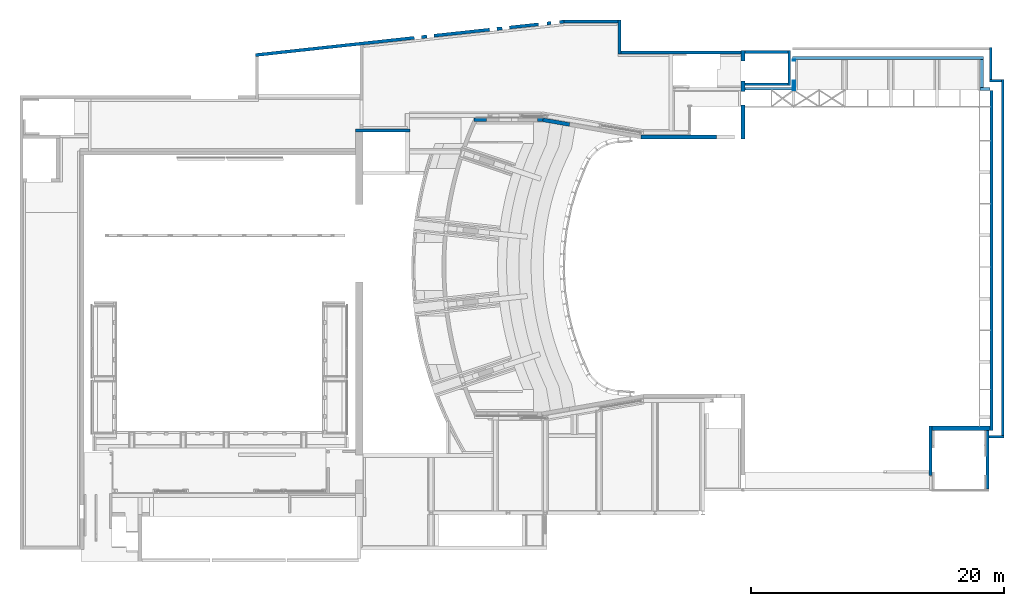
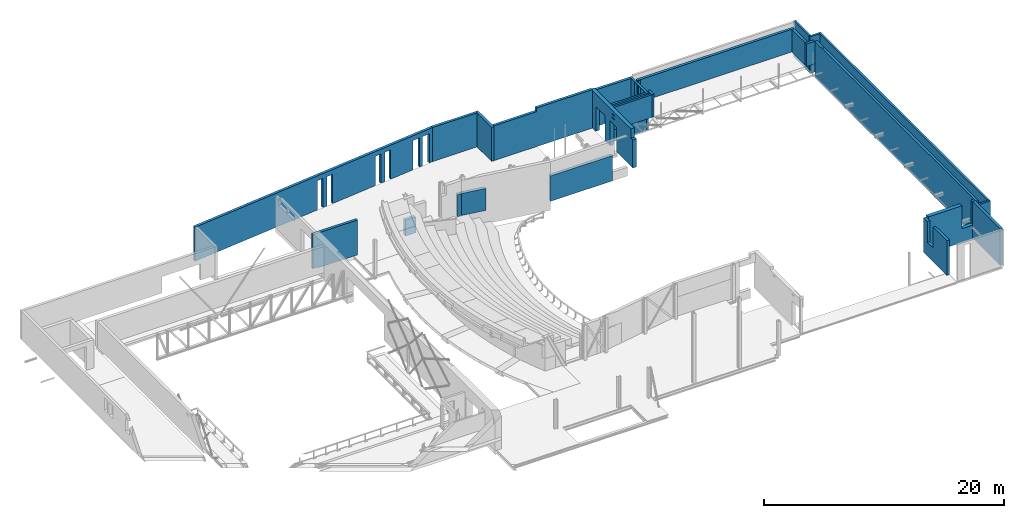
# One storey, part 53 of 68: 26 walls, 19 openings.
"""IFC2X3 building model written with IfcOpenShell, lengths in millimetres."""

from ifc_helpers import new_model, entity, si_unit, converted_unit, derived_unit, direction, frame, frame_2d, origin, origin_2d_with_axis, place, context, subcontext, project, spatial, polyline, rectangle, outline, extrude, clip, bounded_halfspace, material, layer, layer_set, layer_usage, type_object, element, save


model = new_model("IFC2X3")

# Units and contexts
model_context = context("Model", 3, precision=0.01, world=origin(), true_north=direction((6.12303176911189e-17, 1.0)))
body_context = subcontext(model_context, "Body", "Model", "MODEL_VIEW")
ifc_project = project(units=[si_unit("LENGTHUNIT", "METRE", prefix="MILLI"), si_unit("AREAUNIT", "SQUARE_METRE", prefix="MILLI"), si_unit("VOLUMEUNIT", "CUBIC_METRE"), converted_unit("PLANEANGLEUNIT", "DEGREE", entity("IfcRatioMeasure", 0.0174532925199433), si_unit("PLANEANGLEUNIT", "RADIAN"), dimensions=[0, 0, 0, 0, 0, 0, 0]), si_unit("MASSUNIT", "GRAM", prefix="KILO"), derived_unit("MASSDENSITYUNIT", [(si_unit("MASSUNIT", "GRAM", prefix="KILO"), 1), (si_unit("LENGTHUNIT", "METRE"), -3)]), derived_unit("MOMENTOFINERTIAUNIT", [(si_unit("LENGTHUNIT", "METRE"), 4)]), si_unit("TIMEUNIT", "SECOND"), si_unit("FREQUENCYUNIT", "HERTZ"), si_unit("THERMODYNAMICTEMPERATUREUNIT", "DEGREE_CELSIUS"), derived_unit("THERMALTRANSMITTANCEUNIT", [(si_unit("MASSUNIT", "GRAM", prefix="KILO"), 1), (si_unit("THERMODYNAMICTEMPERATUREUNIT", "KELVIN"), -1), (si_unit("TIMEUNIT", "SECOND"), -3)]), derived_unit("VOLUMETRICFLOWRATEUNIT", [(si_unit("LENGTHUNIT", "METRE"), 3), (si_unit("TIMEUNIT", "SECOND"), -1)]), si_unit("ELECTRICCURRENTUNIT", "AMPERE"), si_unit("ELECTRICVOLTAGEUNIT", "VOLT"), si_unit("POWERUNIT", "WATT"), si_unit("FORCEUNIT", "NEWTON", prefix="KILO"), si_unit("ILLUMINANCEUNIT", "LUX"), si_unit("LUMINOUSFLUXUNIT", "LUMEN"), si_unit("LUMINOUSINTENSITYUNIT", "CANDELA"), derived_unit("USERDEFINED", [(si_unit("MASSUNIT", "GRAM", prefix="KILO"), -1), (si_unit("LENGTHUNIT", "METRE"), -2), (si_unit("TIMEUNIT", "SECOND"), 3), (si_unit("LUMINOUSFLUXUNIT", "LUMEN"), 1)]), derived_unit("LINEARVELOCITYUNIT", [(si_unit("LENGTHUNIT", "METRE"), 1), (si_unit("TIMEUNIT", "SECOND"), -1)]), si_unit("PRESSUREUNIT", "PASCAL"), derived_unit("USERDEFINED", [(si_unit("LENGTHUNIT", "METRE"), -2), (si_unit("MASSUNIT", "GRAM", prefix="KILO"), 1), (si_unit("TIMEUNIT", "SECOND"), -2)]), derived_unit("LINEARFORCEUNIT", [(si_unit("MASSUNIT", "GRAM", prefix="KILO"), 1), (si_unit("LENGTHUNIT", "METRE"), 1), (si_unit("TIMEUNIT", "SECOND"), -2), (si_unit("LENGTHUNIT", "METRE"), -1)]), derived_unit("PLANARFORCEUNIT", [(si_unit("MASSUNIT", "GRAM", prefix="KILO"), 1), (si_unit("LENGTHUNIT", "METRE"), 1), (si_unit("TIMEUNIT", "SECOND"), -2), (si_unit("LENGTHUNIT", "METRE"), -2)])], contexts=[model_context])

# Site, building, storey
site_placement = place(None, origin())
site = spatial("IfcSite", under=ifc_project, at=site_placement, Name="Theater aan de Parade", CompositionType="ELEMENT")
building_placement = place(site_placement, origin())
building = spatial("IfcBuilding", under=site, at=building_placement, Name="Theater aan de Parade", CompositionType="ELEMENT")
storey_placement = place(building_placement, frame((0.0, 0.0, 8750.0)))
storey = spatial("IfcBuildingStorey", under=building, at=storey_placement, Name="02 tweede verdieping", CompositionType="ELEMENT", Elevation=8750.0)

# Walls
ifc_material_1 = material(Name="00_PBT_MAT_beton t.p.g._C30/37")
ifc_layer_1 = layer(ifc_material_1, 300.0)
ifc_layer_set_1 = layer_set([ifc_layer_1], Name="Basic Wall:28_PBT_WA_beton t.p.g._d=300_C30/37")
ifc_layer_usage_1 = layer_usage(ifc_layer_set_1, "AXIS2", "NEGATIVE", 150.0)
wall_type_1 = type_object("IfcWallType", Name="Basic Wall:28_PBT_WA_beton t.p.g._d=300_C30/37", PredefinedType="STANDARD", material=ifc_layer_set_1)
wall_1_placement = place(storey_placement, frame((51275.0, 44060.0, -240.0)))
element("IfcWallStandardCase", 1, at=wall_1_placement, inside=storey, type_object=wall_type_1, material=ifc_layer_usage_1, Name="Basic Wall:28_PBT_WA_beton t.p.g._d=300_C30/37", ObjectType="Basic Wall:28_PBT_WA_beton t.p.g._d=300_C30/37", context=body_context, shape_type="SweptSolid", body=[
    extrude(outline(polyline([(395.0, -150.0), (421.052043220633, 150.0), (408.026021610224, 150.0), (0.0, 150.0), (0.0, -150.0), (395.0, -150.0)])), origin(), (0.0, 0.0, 1.0), 2240.00000000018),
])
ifc_layer_usage_2 = layer_usage(ifc_layer_set_1, "AXIS2", "NEGATIVE", 150.0)
wall_2_placement = place(storey_placement, frame((51670.1949934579, 44062.2454299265, -240.0), z_axis=(0.0, 0.0, 1.0), x_axis=(0.985030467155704, -0.172380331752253, 0.0)))
element("IfcWallStandardCase", 2, at=wall_2_placement, inside=storey, type_object=wall_type_1, material=ifc_layer_usage_2, Name="Basic Wall:28_PBT_WA_beton t.p.g._d=300_C30/37", ObjectType="Basic Wall:28_PBT_WA_beton t.p.g._d=300_C30/37", context=body_context, shape_type="SweptSolid", body=[
    extrude(outline(polyline([(2161.81111605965, -150.0), (2161.81111605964, 150.0), (629.453867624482, 150.0), (8.08674473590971, 150.0), (0.0, 150.0), (26.0520432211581, -150.0), (2161.81111605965, -150.0)])), origin(), (0.0, 0.0, 1.0), 2240.0),
])
ifc_layer_usage_3 = layer_usage(ifc_layer_set_1, "AXIS2", "NEGATIVE", 150.0)
wall_3_placement = place(storey_placement, frame((59441.4285714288, 42700.0, -700.0)))
element("IfcWallStandardCase", 3, at=wall_3_placement, inside=storey, type_object=wall_type_1, material=ifc_layer_usage_3, Name="Basic Wall:28_PBT_WA_beton t.p.g._d=300_C30/37", ObjectType="Basic Wall:28_PBT_WA_beton t.p.g._d=300_C30/37", context=body_context, shape_type="SweptSolid", body=[
    extrude(rectangle(XDim=5978.57142857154, YDim=300.000000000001, at=frame_2d((2989.28571428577, -5.96855898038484e-13), x_axis=(-1.0, 0.0))), origin(), (0.0, 0.0, 1.0), 2580.0),
])
ifc_layer_usage_4 = layer_usage(ifc_layer_set_1, "AXIS2", "NEGATIVE", 150.0)
wall_4_placement = place(storey_placement, frame((46246.5143189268, 44060.0, -460.0)))
element("IfcWallStandardCase", 4, at=wall_4_placement, inside=storey, type_object=wall_type_1, material=ifc_layer_usage_4, Name="Basic Wall:28_PBT_WA_beton t.p.g._d=300_C30/37", ObjectType="Basic Wall:28_PBT_WA_beton t.p.g._d=300_C30/37", context=body_context, shape_type="SweptSolid", body=[
    extrude(rectangle(XDim=994.999999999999, YDim=300.000000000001, at=frame_2d((497.5, 0.0), x_axis=(-1.0, 0.0))), origin(), (0.0, 0.0, 1.0), 1630.0),
])

# Wall, openings
ifc_layer_2 = layer(ifc_material_1, 250.0)
ifc_layer_set_2 = layer_set([ifc_layer_2], Name="Basic Wall:28_PBT_WA_beton t.p.g._d=250_C30/37")
ifc_layer_usage_5 = layer_usage(ifc_layer_set_2, "AXIS2", "NEGATIVE", 125.0)
wall_type_2 = type_object("IfcWallType", Name="Basic Wall:28_PBT_WA_beton t.p.g._d=250_C30/37", PredefinedType="STANDARD", material=ifc_layer_set_2)
wall_5_placement = place(storey_placement, frame((53371.6537622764, 51836.2485492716, -80.0), z_axis=(0.0, 0.0, 1.0), x_axis=(-0.994164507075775, -0.107874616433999, 0.0)))
wall_5 = element("IfcWallStandardCase", 5, at=wall_5_placement, inside=storey, type_object=wall_type_2, material=ifc_layer_usage_5, Name="Basic Wall:28_PBT_WA_beton t.p.g._d=250_C30/37", ObjectType="Basic Wall:28_PBT_WA_beton t.p.g._d=250_C30/37", context=body_context, shape_type="SweptSolid", body=[
    extrude(outline(polyline([(0.0, -125.0), (24562.6067870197, -125.0), (24589.7337402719, 125.0), (24338.2663038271, 125.0), (16276.2599590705, 125.0), (16024.7925226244, 125.0), (13.5237860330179, 125.0), (0.0, -125.0)])), origin(), (0.0, 0.0, 1.0), 3470.0),
])
opening_1_placement = place(wall_5_placement, origin())
element("IfcOpeningElement", 6, at=opening_1_placement, cuts=wall_5, Name="Basic Wall:28_PBT_WA_beton t.p.g._d=250_C30/37", ObjectType="Opening", context=body_context, shape_type="SweptSolid", body=[
    extrude(rectangle(XDim=2979.99999999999, YDim=680.000000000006, at=frame_2d((4.77484718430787e-12, -1.13686837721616e-12), x_axis=(0.0, 1.0))), frame((699.437637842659, -125.0, 1490.0), z_axis=(0.0, 1.0, 0.0), x_axis=(1.0, 0.0, 0.0)), (0.0, 0.0, 1.0), 250.000000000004),
])
opening_2_placement = place(wall_5_placement, origin())
element("IfcOpeningElement", 7, at=opening_2_placement, cuts=wall_5, Name="Basic Wall:28_PBT_WA_beton t.p.g._d=250_C30/37", ObjectType="Opening", context=body_context, shape_type="SweptSolid", body=[
    extrude(rectangle(XDim=2979.99999999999, YDim=680.000000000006, at=frame_2d((-4.77484718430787e-12, -1.13686837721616e-12), x_axis=(0.0, 1.0))), frame((1699.43763784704, -125.0, 1490.0), z_axis=(0.0, 1.0, 0.0), x_axis=(1.0, 0.0, 0.0)), (0.0, 0.0, 1.0), 249.999999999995),
])
opening_3_placement = place(wall_5_placement, origin())
element("IfcOpeningElement", 8, at=opening_3_placement, cuts=wall_5, Name="Basic Wall:28_PBT_WA_beton t.p.g._d=250_C30/37", ObjectType="Opening", context=body_context, shape_type="SweptSolid", body=[
    extrude(rectangle(XDim=2979.99999999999, YDim=570.000000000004, at=frame_2d((0.0, -1.13686837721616e-12), x_axis=(0.0, 1.0))), frame((4644.43762879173, -125.0, 1490.0), z_axis=(0.0, 1.0, 0.0), x_axis=(1.0, 0.0, 0.0)), (0.0, 0.0, 1.0), 250.000000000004),
])
opening_4_placement = place(wall_5_placement, origin())
element("IfcOpeningElement", 9, at=opening_4_placement, cuts=wall_5, Name="Basic Wall:28_PBT_WA_beton t.p.g._d=250_C30/37", ObjectType="Opening", context=body_context, shape_type="SweptSolid", body=[
    extrude(rectangle(XDim=2979.99999999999, YDim=570.000000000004, at=frame_2d((0.0, -1.13686837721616e-12), x_axis=(0.0, 1.0))), frame((5644.43762871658, -125.0, 1490.0), z_axis=(0.0, 1.0, 0.0), x_axis=(1.0, 0.0, 0.0)), (0.0, 0.0, 1.0), 250.000000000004),
])
opening_5_placement = place(wall_5_placement, origin())
element("IfcOpeningElement", 10, at=opening_5_placement, cuts=wall_5, Name="Basic Wall:28_PBT_WA_beton t.p.g._d=250_C30/37", ObjectType="Opening", context=body_context, shape_type="SweptSolid", body=[
    extrude(rectangle(XDim=2979.99999999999, YDim=570.000000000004, at=frame_2d((0.0, -1.13686837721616e-12), x_axis=(0.0, 1.0))), frame((10644.4376367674, -125.0, 1490.0), z_axis=(0.0, 1.0, 0.0), x_axis=(1.0, 0.0, 0.0)), (0.0, 0.0, 1.0), 250.000000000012),
])
opening_6_placement = place(wall_5_placement, origin())
element("IfcOpeningElement", 11, at=opening_6_placement, cuts=wall_5, Name="Basic Wall:28_PBT_WA_beton t.p.g._d=250_C30/37", ObjectType="Opening", context=body_context, shape_type="SweptSolid", body=[
    extrude(rectangle(XDim=2979.99999999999, YDim=570.000000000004, at=frame_2d((0.0, -1.13686837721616e-12), x_axis=(0.0, 1.0))), frame((11644.437338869, -125.0, 1490.0), z_axis=(0.0, 1.0, 0.0), x_axis=(1.0, 0.0, 0.0)), (0.0, 0.0, 1.0), 250.000000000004),
])

# Wall, opening
ifc_layer_usage_6 = layer_usage(ifc_layer_set_2, "AXIS2", "POSITIVE", -125.0)
wall_6_placement = place(storey_placement, frame((82375.0084217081, 19810.0002435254, -90.0), z_axis=(0.0, 0.0, 1.0), x_axis=(0.0, -1.0, 0.0)))
wall_6 = element("IfcWallStandardCase", 12, at=wall_6_placement, inside=storey, type_object=wall_type_2, material=ifc_layer_usage_6, Name="Basic Wall:28_PBT_WA_beton t.p.g._d=250_C30/37", ObjectType="Basic Wall:28_PBT_WA_beton t.p.g._d=250_C30/37", context=body_context, shape_type="Clipping", body=[
    clip(clip(extrude(rectangle(XDim=3885.00024352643, YDim=250.000000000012, at=frame_2d((1942.50012176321, -1.33582034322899e-12), x_axis=(-1.0, 0.0))), origin(), (0.0, 0.0, 1.0), 3540.0), bounded_halfspace(frame((3613.00024352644, -125.0, 10.0), z_axis=(0.0, 0.0, 1.0), x_axis=(0.0, 1.0, 0.0)), True, frame((3613.00024352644, -125.0, 10.0), z_axis=(0.0, 0.0, 1.0), x_axis=(0.0, 1.0, 0.0)), polyline([(0.0, 0.0), (0.0, -272.0), (250.0, -272.0), (250.0, 0.0), (0.0, 0.0)]))), bounded_halfspace(frame((3613.00024352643, 125.0, 10.0), z_axis=(-1.0, 0.0, 0.0), x_axis=(0.0, 0.0, 1.0)), True, frame((3613.00024352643, 125.0, 10.0), z_axis=(-1.0, 0.0, 0.0), x_axis=(0.0, 0.0, 1.0)), polyline([(0.0, 0.0), (-10.0, 0.0), (-10.0, -250.0), (0.0, -250.0), (0.0, 0.0)]))),
])
opening_7_placement = place(wall_6_placement, origin())
element("IfcOpeningElement", 13, at=opening_7_placement, cuts=wall_6, Name="Basic Wall:28_PBT_WA_beton t.p.g._d=250_C30/37", ObjectType="Opening", context=body_context, shape_type="SweptSolid", body=[
    extrude(rectangle(XDim=2219.99999999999, YDim=954.000000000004, at=frame_2d((1.13686837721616e-12, 0.0), x_axis=(1.0, 0.0))), frame((1114.5553118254, -125.0, 2510.0), z_axis=(0.0, 1.0, 0.0), x_axis=(0.0, 0.0, -1.0)), (0.0, 0.0, 1.0), 250.000000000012),
])

# Walls
ifc_layer_usage_7 = layer_usage(ifc_layer_set_2, "AXIS2", "POSITIVE", -125.0)
wall_7_placement = place(storey_placement, frame((87096.0, 46486.8723406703, 1310.0), z_axis=(0.0, 0.0, 1.0), x_axis=(-1.0, 0.0, 0.0)))
element("IfcWallStandardCase", 14, at=wall_7_placement, inside=storey, type_object=wall_type_2, material=ifc_layer_usage_7, Name="Basic Wall:28_PBT_WA_beton t.p.g._d=250_C30/37", ObjectType="Basic Wall:28_PBT_WA_beton t.p.g._d=250_C30/37", context=body_context, shape_type="SweptSolid", body=[
    extrude(rectangle(XDim=790.831682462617, YDim=249.999999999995, at=frame_2d((395.415841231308, -2.68585154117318e-12), x_axis=(-1.0, 0.0))), origin(), (0.0, 0.0, 1.0), 2300.0),
])
ifc_layer_usage_8 = layer_usage(ifc_layer_set_2, "AXIS2", "NEGATIVE", 125.0)
wall_8_placement = place(storey_placement, frame((57762.0315633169, 49261.9979908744, -80.0), z_axis=(0.0, 0.0, 1.0), x_axis=(0.0, 1.0, 0.0)))
element("IfcWallStandardCase", 15, at=wall_8_placement, inside=storey, type_object=wall_type_2, material=ifc_layer_usage_8, Name="Basic Wall:28_PBT_WA_beton t.p.g._d=250_C30/37", ObjectType="Basic Wall:28_PBT_WA_beton t.p.g._d=250_C30/37", context=body_context, shape_type="SweptSolid", body=[
    extrude(rectangle(XDim=2698.52112178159, YDim=249.999999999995, at=frame_2d((1349.2605608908, 0.0), x_axis=(-1.0, 0.0))), origin(), (0.0, 0.0, 1.0), 3470.0),
])
ifc_layer_usage_9 = layer_usage(ifc_layer_set_2, "AXIS2", "POSITIVE", -125.0)
wall_9_placement = place(storey_placement, frame((67356.2561009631, 49386.9979908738, -80.0), z_axis=(0.0, 0.0, 1.0), x_axis=(-1.0, 0.0, 0.0)))
element("IfcWallStandardCase", 16, at=wall_9_placement, inside=storey, type_object=wall_type_2, material=ifc_layer_usage_9, Name="Basic Wall:28_PBT_WA_beton t.p.g._d=250_C30/37", ObjectType="Basic Wall:28_PBT_WA_beton t.p.g._d=250_C30/37", context=body_context, shape_type="Clipping", body=[
    clip(clip(extrude(rectangle(XDim=9469.22453764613, YDim=249.999999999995, at=frame_2d((4734.61226882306, -2.00373051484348e-12), x_axis=(-1.0, 0.0))), origin(), (0.0, 0.0, 1.0), 3930.0), bounded_halfspace(frame((5372.37384460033, 125.0, 3550.0), z_axis=(0.0, 0.0, -1.0), x_axis=(1.0, 0.0, 0.0)), True, frame((5372.37384460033, 125.0, 3550.0), z_axis=(0.0, 0.0, -1.0), x_axis=(1.0, 0.0, 0.0)), polyline([(0.0, 0.0), (300.0, 0.0), (320.0, 0.0), (4046.85069304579, 0.0), (4096.85069304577, 0.0), (4096.85069304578, 250.0), (0.0, 250.0), (0.0, 0.0)]))), bounded_halfspace(frame((5372.37384460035, -125.0, 3550.0), z_axis=(-1.0, 0.0, 0.0), x_axis=(0.0, 0.0, 1.0)), True, frame((5372.37384460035, -125.0, 3550.0), z_axis=(-1.0, 0.0, 0.0), x_axis=(0.0, 0.0, 1.0)), polyline([(0.0, 0.0), (380.0, 0.0), (380.0, 250.0), (295.0, 250.0), (0.0, 250.0), (0.0, 0.0)]))),
])
ifc_layer_usage_10 = layer_usage(ifc_layer_set_2, "AXIS2", "POSITIVE", -125.0)
wall_10_placement = place(storey_placement, frame((86555.1683175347, 48947.0, 1310.0), z_axis=(0.0, 0.0, 1.0), x_axis=(-1.0, 0.0, 0.0)))
element("IfcWallStandardCase", 17, at=wall_10_placement, inside=storey, type_object=wall_type_2, material=ifc_layer_usage_10, Name="Basic Wall:28_PBT_WA_beton t.p.g._d=250_C30/37", ObjectType="Basic Wall:28_PBT_WA_beton t.p.g._d=250_C30/37", context=body_context, shape_type="SweptSolid", body=[
    extrude(rectangle(XDim=15098.1683175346, YDim=249.999999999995, at=frame_2d((7549.08415876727, -5.47117906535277e-13), x_axis=(-1.0, 0.0))), origin(), (0.0, 0.0, 1.0), 2300.0),
])
ifc_layer_usage_11 = layer_usage(ifc_layer_set_2, "AXIS2", "NEGATIVE", 125.0)
wall_11_placement = place(storey_placement, frame((86891.0, 19460.0002435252, 0.0), z_axis=(0.0, 0.0, 1.0), x_axis=(0.0, -1.0, 0.0)))
element("IfcWallStandardCase", 18, at=wall_11_placement, inside=storey, type_object=wall_type_2, material=ifc_layer_usage_11, Name="Basic Wall:28_PBT_WA_beton t.p.g._d=250_C30/37", ObjectType="Basic Wall:28_PBT_WA_beton t.p.g._d=250_C30/37", context=body_context, shape_type="SweptSolid", body=[
    extrude(rectangle(XDim=4610.0002435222, YDim=250.000000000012, at=frame_2d((2305.0001217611, 1.49213974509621e-13), x_axis=(-1.0, 0.0))), origin(), (0.0, 0.0, 1.0), 3730.0),
])
ifc_layer_usage_12 = layer_usage(ifc_layer_set_2, "AXIS2", "POSITIVE", -125.0)
wall_12_placement = place(storey_placement, frame((86430.1683175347, 46611.8723406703, 1310.0), z_axis=(0.0, 0.0, 1.0), x_axis=(0.0, 1.0, 0.0)))
element("IfcWallStandardCase", 19, at=wall_12_placement, inside=storey, type_object=wall_type_2, material=ifc_layer_usage_12, Name="Basic Wall:28_PBT_WA_beton t.p.g._d=250_C30/37", ObjectType="Basic Wall:28_PBT_WA_beton t.p.g._d=250_C30/37", context=body_context, shape_type="SweptSolid", body=[
    extrude(rectangle(XDim=2210.12765932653, YDim=250.000000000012, at=frame_2d((1105.06382966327, 3.5598191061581e-12), x_axis=(-1.0, 0.0))), origin(), (0.0, 0.0, 1.0), 2300.0),
])
ifc_layer_usage_13 = layer_usage(ifc_layer_set_2, "AXIS2", "NEGATIVE", 125.0)
wall_13_placement = place(storey_placement, frame((57637.0315633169, 51835.519112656, -80.0), z_axis=(0.0, 0.0, 1.0), x_axis=(-1.0, 0.0, 0.0)))
element("IfcWallStandardCase", 20, at=wall_13_placement, inside=storey, type_object=wall_type_2, material=ifc_layer_usage_13, Name="Basic Wall:28_PBT_WA_beton t.p.g._d=250_C30/37", ObjectType="Basic Wall:28_PBT_WA_beton t.p.g._d=250_C30/37", context=body_context, shape_type="SweptSolid", body=[
    extrude(outline(polyline([(4278.8621280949, -125.0), (4265.33834206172, 125.0), (0.0, 125.0), (0.0, -125.0), (4278.8621280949, -125.0)])), origin(), (0.0, 0.0, 1.0), 3470.0),
])
ifc_layer_usage_14 = layer_usage(ifc_layer_set_2, "AXIS2", "POSITIVE", -125.0)
wall_14_placement = place(storey_placement, frame((36853.8581300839, 43225.0, -80.0)))
element("IfcWallStandardCase", 21, at=wall_14_placement, inside=storey, type_object=wall_type_2, material=ifc_layer_usage_14, Name="Basic Wall:28_PBT_WA_beton t.p.g._d=250_C30/37", ObjectType="Basic Wall:28_PBT_WA_beton t.p.g._d=250_C30/37", context=body_context, shape_type="Clipping", body=[
    clip(clip(extrude(rectangle(XDim=4313.99999741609, YDim=249.999999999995, at=frame_2d((2156.99999870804, 7.95807864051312e-13), x_axis=(-1.0, 0.0))), origin(), (0.0, 0.0, 1.0), 3550.0), bounded_halfspace(frame((600.0, 125.0, 80.0)), True, frame((600.0, 125.0, 80.0)), polyline([(0.0, 0.0), (-600.0, 0.0), (-600.0, -250.0), (0.0, -250.0), (0.0, 0.0)]))), bounded_halfspace(frame((600.0, -125.0, 80.0), z_axis=(1.0, 0.0, 0.0), x_axis=(0.0, 0.0, 1.0)), True, frame((600.0, -125.0, 80.0), z_axis=(1.0, 0.0, 0.0), x_axis=(0.0, 0.0, 1.0)), polyline([(0.0, 0.0), (-80.0, 0.0), (-80.0, -250.0), (0.0, -250.0), (0.0, 0.0)]))),
])
ifc_layer_usage_15 = layer_usage(ifc_layer_set_2, "AXIS2", "NEGATIVE", 125.0)
wall_15_placement = place(storey_placement, frame((71107.0, 49437.0, -80.0), z_axis=(0.0, 0.0, 1.0), x_axis=(-1.0, 0.0, 0.0)))
element("IfcWallStandardCase", 22, at=wall_15_placement, inside=storey, type_object=wall_type_2, material=ifc_layer_usage_15, Name="Basic Wall:28_PBT_WA_beton t.p.g._d=250_C30/37", ObjectType="Basic Wall:28_PBT_WA_beton t.p.g._d=250_C30/37", context=body_context, shape_type="SweptSolid", body=[
    extrude(rectangle(XDim=3400.74389903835, YDim=249.999999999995, at=frame_2d((1700.37194951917, 1.62003743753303e-12), x_axis=(-1.0, 0.0))), origin(), (0.0, 0.0, 1.0), 3730.0),
])

# Wall, opening
ifc_layer_3 = layer(ifc_material_1, 200.0)
ifc_layer_set_3 = layer_set([ifc_layer_3], Name="Basic Wall:28_PBT_WA_beton t.p.g._d=200_C30/37")
ifc_layer_usage_16 = layer_usage(ifc_layer_set_3, "AXIS2", "NEGATIVE", 100.0)
wall_type_3 = type_object("IfcWallType", Name="Basic Wall:28_PBT_WA_beton t.p.g._d=200_C30/37", PredefinedType="STANDARD", material=ifc_layer_set_3)
wall_16_placement = place(storey_placement, frame((71207.0, 46761.8723406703, -80.0), z_axis=(0.0, 0.0, 1.0), x_axis=(0.0, 1.0, 0.0)))
wall_16 = element("IfcWallStandardCase", 23, at=wall_16_placement, inside=storey, type_object=wall_type_3, material=ifc_layer_usage_16, Name="Basic Wall:28_PBT_WA_beton t.p.g._d=200_C30/37", ObjectType="Basic Wall:28_PBT_WA_beton t.p.g._d=200_C30/37", context=body_context, shape_type="Clipping", body=[
    clip(extrude(rectangle(XDim=2800.12765932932, YDim=200.000000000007, at=frame_2d((1400.06382966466, -2.63611354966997e-12), x_axis=(-1.0, 0.0))), origin(), (0.0, 0.0, 1.0), 3720.0), bounded_halfspace(frame((2800.12765932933, 100.0, 3720.0), z_axis=(0.0, 0.0, -1.0), x_axis=(0.0, 1.0, 0.0)), True, frame((2800.12765932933, 100.0, 3720.0), z_axis=(0.0, 0.0, -1.0), x_axis=(0.0, 1.0, 0.0)), polyline([(0.0, 0.0), (-200.0, 0.0), (-200.0, -490.0), (-200.0, -2800.12765932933), (0.0, -2800.12765932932), (0.0, 0.0)]))),
])
opening_8_placement = place(wall_16_placement, origin())
element("IfcOpeningElement", 24, at=opening_8_placement, cuts=wall_16, Name="Basic Wall:28_PBT_WA_beton t.p.g._d=200_C30/37", ObjectType="Opening", context=body_context, shape_type="SweptSolid", body=[
    extrude(rectangle(XDim=2299.99999999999, YDim=1580.0, at=frame_2d((0.0, 0.0), x_axis=(0.0, 1.0))), frame((1165.0, -100.0, 2540.0), z_axis=(0.0, 1.0, 0.0), x_axis=(1.0, 0.0, 0.0)), (0.0, 0.0, 1.0), 200.000000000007),
])

# Wall
ifc_layer_usage_17 = layer_usage(ifc_layer_set_3, "AXIS2", "POSITIVE", -100.0)
wall_17_placement = place(storey_placement, frame((71107.0, 46861.8723406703, -80.0), z_axis=(0.0, 0.0, 1.0), x_axis=(-1.0, 0.0, 0.0)))
element("IfcWallStandardCase", 25, at=wall_17_placement, inside=storey, type_object=wall_type_3, material=ifc_layer_usage_17, Name="Basic Wall:28_PBT_WA_beton t.p.g._d=200_C30/37", ObjectType="Basic Wall:28_PBT_WA_beton t.p.g._d=200_C30/37", context=body_context, shape_type="SweptSolid", body=[
    extrude(rectangle(XDim=3400.74389903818, YDim=200.000000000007, at=frame_2d((1700.37194951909, -1.61293201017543e-12), x_axis=(-1.0, 0.0))), origin(), (0.0, 0.0, 1.0), 3730.0),
])

# Wall, opening
ifc_layer_usage_18 = layer_usage(ifc_layer_set_3, "AXIS2", "NEGATIVE", 100.0)
wall_18_placement = place(storey_placement, frame((71557.0, 46411.8723406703, 1310.0), z_axis=(0.0, 0.0, 1.0), x_axis=(0.0, 1.0, 0.0)))
wall_18 = element("IfcWallStandardCase", 26, at=wall_18_placement, inside=storey, type_object=wall_type_3, material=ifc_layer_usage_18, Name="Basic Wall:28_PBT_WA_beton t.p.g._d=200_C30/37", ObjectType="Basic Wall:28_PBT_WA_beton t.p.g._d=200_C30/37", context=body_context, shape_type="SweptSolid", body=[
    extrude(rectangle(XDim=2410.12765932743, YDim=200.000000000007, at=frame_2d((1205.06382966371, 4.47641923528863e-13), x_axis=(-1.0, 0.0))), origin(), (0.0, 0.0, 1.0), 2300.0),
])
opening_9_placement = place(wall_18_placement, origin())
element("IfcOpeningElement", 27, at=opening_9_placement, cuts=wall_18, Name="Basic Wall:28_PBT_WA_beton t.p.g._d=200_C30/37", ObjectType="Opening", context=body_context, shape_type="SweptSolid", body=[
    extrude(rectangle(XDim=2299.99999999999, YDim=1580.0, at=origin_2d_with_axis()), frame((1515.0, -100.0, 1150.0), z_axis=(0.0, 1.0, 0.0), x_axis=(0.0, 0.0, -1.0)), (0.0, 0.0, 1.0), 200.000000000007),
])

# Walls
ifc_layer_usage_19 = layer_usage(ifc_layer_set_3, "AXIS2", "POSITIVE", -100.0)
wall_19_placement = place(storey_placement, frame((71457.0, 46511.8723406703, 1310.0), z_axis=(0.0, 0.0, 1.0), x_axis=(-1.0, 0.0, 0.0)))
element("IfcWallStandardCase", 28, at=wall_19_placement, inside=storey, type_object=wall_type_3, material=ifc_layer_usage_19, Name="Basic Wall:28_PBT_WA_beton t.p.g._d=200_C30/37", ObjectType="Basic Wall:28_PBT_WA_beton t.p.g._d=200_C30/37", context=body_context, shape_type="SweptSolid", body=[
    extrude(rectangle(XDim=3750.74389903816, YDim=200.000000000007, at=frame_2d((1875.37194951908, -8.88178419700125e-13), x_axis=(-1.0, 0.0))), origin(), (0.0, 0.0, 1.0), 2300.0),
])
ifc_material_2 = material(Name="00_PBT_MAT_beton prefab")
ifc_layer_4 = layer(ifc_material_2, 200.0)
ifc_layer_set_4 = layer_set([ifc_layer_4], Name="Basic Wall:28_PBT_WA_beton prefab_d=200")
ifc_layer_usage_20 = layer_usage(ifc_layer_set_4, "AXIS2", "POSITIVE", -100.0)
wall_type_4 = type_object("IfcWallType", Name="Basic Wall:28_PBT_WA_beton prefab_d=200", PredefinedType="STANDARD", material=ifc_layer_set_4)
wall_20_placement = place(storey_placement, frame((87016.0, 18989.9999114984, -90.0)))
element("IfcWallStandardCase", 29, at=wall_20_placement, inside=storey, type_object=wall_type_4, material=ifc_layer_usage_20, Name="Basic Wall:28_PBT_WA_beton prefab_d=200", ObjectType="Basic Wall:28_PBT_WA_beton prefab_d=200", context=body_context, shape_type="SweptSolid", body=[
    extrude(rectangle(XDim=1170.00000000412, YDim=200.000000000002, at=frame_2d((585.000000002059, -1.20792265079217e-13), x_axis=(-1.0, 0.0))), origin(), (0.0, 0.0, 1.0), 3740.0),
])
ifc_layer_usage_21 = layer_usage(ifc_layer_set_4, "AXIS2", "NEGATIVE", 100.0)
wall_21_placement = place(storey_placement, frame((88086.0, 47270.8149236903, -90.0), z_axis=(0.0, 0.0, 1.0), x_axis=(0.0, -1.0, 0.0)))
element("IfcWallStandardCase", 30, at=wall_21_placement, inside=storey, type_object=wall_type_4, material=ifc_layer_usage_21, Name="Basic Wall:28_PBT_WA_beton prefab_d=200", ObjectType="Basic Wall:28_PBT_WA_beton prefab_d=200", context=body_context, shape_type="Clipping", body=[
    clip(extrude(rectangle(XDim=28180.815012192, YDim=199.999999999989, at=frame_2d((14090.407506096, -2.63611354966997e-12), x_axis=(-1.0, 0.0))), origin(), (0.0, 0.0, 1.0), 3730.0), bounded_halfspace(frame((0.0, -100.0, 3730.0), z_axis=(0.0, 0.0, -1.0), x_axis=(0.0, 1.0, 0.0)), True, frame((0.0, -100.0, 3730.0), z_axis=(0.0, 0.0, -1.0), x_axis=(0.0, 1.0, 0.0)), polyline([(0.0, 0.0), (200.0, 0.0), (200.0, 28180.815012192), (0.0, 28180.815012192), (0.0, 200.0), (0.0, 0.0)]))),
])
ifc_layer_usage_22 = layer_usage(ifc_layer_set_4, "AXIS2", "POSITIVE", -100.0)
wall_22_placement = place(storey_placement, frame((87986.0, 47170.8149236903, -90.0), z_axis=(0.0, 0.0, 1.0), x_axis=(-1.0, 0.0, 0.0)))
element("IfcWallStandardCase", 31, at=wall_22_placement, inside=storey, type_object=wall_type_4, material=ifc_layer_usage_22, Name="Basic Wall:28_PBT_WA_beton prefab_d=200", ObjectType="Basic Wall:28_PBT_WA_beton prefab_d=200", context=body_context, shape_type="Clipping", body=[
    clip(extrude(rectangle(XDim=931.00000000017, YDim=200.000000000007, at=frame_2d((465.500000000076, -1.11555209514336e-12), x_axis=(-1.0, 0.0))), origin(), (0.0, 0.0, 1.0), 3730.0), bounded_halfspace(frame((0.0, -100.0, 3730.0), z_axis=(0.0, 0.0, -1.0), x_axis=(0.0, 1.0, 0.0)), True, frame((0.0, -100.0, 3730.0), z_axis=(0.0, 0.0, -1.0), x_axis=(0.0, 1.0, 0.0)), polyline([(0.0, 0.0), (200.0, 0.0), (200.0, 931.0), (0.0, 931.0), (0.0, 731.0), (0.0, 0.0)]))),
])
ifc_layer_usage_23 = layer_usage(ifc_layer_set_4, "AXIS2", "NEGATIVE", 100.0)
wall_23_placement = place(storey_placement, frame((87155.0, 49802.0, -80.0), z_axis=(0.0, 0.0, 1.0), x_axis=(0.0, -1.0, 0.0)))
element("IfcWallStandardCase", 32, at=wall_23_placement, inside=storey, type_object=wall_type_4, material=ifc_layer_usage_23, Name="Basic Wall:28_PBT_WA_beton prefab_d=200", ObjectType="Basic Wall:28_PBT_WA_beton prefab_d=200", context=body_context, shape_type="Clipping", body=[
    clip(clip(extrude(rectangle(XDim=2531.18507630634, YDim=199.999999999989, at=frame_2d((1265.59253815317, 6.68620714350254e-12), x_axis=(-1.0, 0.0))), origin(), (0.0, 0.0, 1.0), 3720.0), bounded_halfspace(frame((2531.18507630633, -100.0, 0.0), z_axis=(0.0, 0.0, 1.0), x_axis=(0.0, 1.0, 0.0)), True, frame((2531.18507630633, -100.0, 0.0), z_axis=(0.0, 0.0, 1.0), x_axis=(0.0, 1.0, 0.0)), polyline([(0.0, 0.0), (200.0, 0.0), (200.0, 2531.18507630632), (0.0, 2531.18507630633), (0.0, 0.0)]))), bounded_halfspace(frame((0.0, -100.0, 3720.0), z_axis=(0.0, 0.0, -1.0), x_axis=(0.0, 1.0, 0.0)), True, frame((0.0, -100.0, 3720.0), z_axis=(0.0, 0.0, -1.0), x_axis=(0.0, 1.0, 0.0)), polyline([(0.0, 0.0), (200.0, 0.0), (200.0, 2531.18507630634), (0.0, 2531.18507630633), (0.0, 200.0), (0.0, 0.0)]))),
])
ifc_material_3 = material(Name="00_PBT_MAT_beton t.p.g._C40/50")
ifc_layer_5 = layer(ifc_material_3, 230.0)
ifc_layer_set_5 = layer_set([ifc_layer_5], Name="Basic Wall:28_PBT_WA_beton t.p.g._d=230_C40/50")
ifc_layer_usage_24 = layer_usage(ifc_layer_set_5, "AXIS2", "NEGATIVE", 115.0)
wall_type_5 = type_object("IfcWallType", Name="Basic Wall:28_PBT_WA_beton t.p.g._d=230_C40/50", PredefinedType="STANDARD", material=ifc_layer_set_5)
wall_24_placement = place(storey_placement, frame((87211.0, 46361.8723406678, -90.0), z_axis=(0.0, 0.0, 1.0), x_axis=(0.0, -1.0, 0.0)))
element("IfcWallStandardCase", 33, at=wall_24_placement, inside=storey, type_object=wall_type_5, material=ifc_layer_usage_24, Name="Basic Wall:28_PBT_WA_beton t.p.g._d=230_C40/50", ObjectType="Basic Wall:28_PBT_WA_beton t.p.g._d=230_C40/50", context=body_context, shape_type="Clipping", body=[
    clip(clip(extrude(rectangle(XDim=26901.8720971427, YDim=230.000000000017, at=frame_2d((13450.9360485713, 2.52953213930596e-12), x_axis=(-1.0, 0.0))), origin(), (0.0, 0.0, 1.0), 3730.0), bounded_halfspace(frame((1226.8723406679, -115.0, 3730.0), z_axis=(0.0, 0.0, -1.0), x_axis=(0.0, 1.0, 0.0)), True, frame((1226.8723406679, -115.0, 3730.0)), polyline([(0.0, 0.0), (25674.9997564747, 0.0), (25674.9997564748, 230.0), (0.0, 230.0), (0.0, 0.0)]))), bounded_halfspace(frame((1226.8723406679, -115.0, 3700.0), z_axis=(0.0, 0.0, 1.0), x_axis=(0.0, 1.0, 0.0)), False, frame((1226.8723406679, -115.0, 3700.0)), polyline([(0.0, 0.0), (0.0, 230.0), (-125.0, 230.0), (-1226.87234066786, 230.0), (-1226.8723406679, 0.0), (-125.0, 0.0), (0.0, 0.0)]))),
])

# Wall, openings
ifc_layer_6 = layer(ifc_material_1, 350.0)
ifc_layer_set_6 = layer_set([ifc_layer_6], Name="Basic Wall:28_PBT_WA_beton t.p.g._d=350_C30/37")
ifc_layer_usage_25 = layer_usage(ifc_layer_set_6, "AXIS2", "NEGATIVE", 175.0)
wall_type_6 = type_object("IfcWallType", Name="Basic Wall:28_PBT_WA_beton t.p.g._d=350_C30/37", PredefinedType="STANDARD", material=ifc_layer_set_6)
wall_25_placement = place(storey_placement, frame((67531.2561009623, 42550.0, -80.0), z_axis=(0.0, 0.0, 1.0), x_axis=(0.0, 1.0, 0.0)))
wall_25 = element("IfcWallStandardCase", 34, at=wall_25_placement, inside=storey, type_object=wall_type_6, material=ifc_layer_usage_25, Name="Basic Wall:28_PBT_WA_beton t.p.g._d=350_C30/37", ObjectType="Basic Wall:28_PBT_WA_beton t.p.g._d=350_C30/37", context=body_context, shape_type="Clipping", body=[
    clip(clip(extrude(rectangle(XDim=7011.99999999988, YDim=350.000000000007, at=frame_2d((3505.99999999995, -5.6843418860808e-13), x_axis=(-1.0, 0.0))), origin(), (0.0, 0.0, 1.0), 3810.0), bounded_halfspace(frame((300.0, 175.0, 2860.0), z_axis=(1.0, 0.0, 0.0), x_axis=(0.0, 1.0, 0.0)), True, frame((300.0, 175.0, 2860.0), z_axis=(1.0, 0.0, 0.0), x_axis=(0.0, 1.0, 0.0)), polyline([(0.0, 0.0), (0.0, 950.0), (-350.0, 950.0), (-350.0, 0.0), (0.0, 0.0)]))), bounded_halfspace(frame((300.0, -175.0, 2860.0), z_axis=(0.0, 0.0, -1.0), x_axis=(-1.0, 0.0, 0.0)), True, frame((300.0, -175.0, 2860.0), z_axis=(0.0, 0.0, -1.0), x_axis=(-1.0, 0.0, 0.0)), polyline([(0.0, 0.0), (300.0, 0.0), (300.0, 350.0), (0.0, 350.0), (0.0, 0.0)]))),
])
opening_10_placement = place(wall_25_placement, origin())
element("IfcOpeningElement", 35, at=opening_10_placement, cuts=wall_25, Name="Basic Wall:28_PBT_WA_beton t.p.g._d=350_C30/37", ObjectType="Opening", context=body_context, shape_type="SweptSolid", body=[
    extrude(rectangle(XDim=2499.99999999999, YDim=1054.0, at=frame_2d((0.0, 1.02318153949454e-12), x_axis=(0.0, 1.0))), frame((3229.51542200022, -175.0, 1250.0), z_axis=(0.0, 1.0, 0.0), x_axis=(1.0, 0.0, 0.0)), (0.0, 0.0, 1.0), 350.000000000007),
])
opening_11_placement = place(wall_25_placement, origin())
element("IfcOpeningElement", 36, at=opening_11_placement, cuts=wall_25, Name="Basic Wall:28_PBT_WA_beton t.p.g._d=350_C30/37", ObjectType="Opening", context=body_context, shape_type="SweptSolid", body=[
    extrude(rectangle(XDim=2529.99999999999, YDim=1580.0, at=frame_2d((0.0, 0.0), x_axis=(0.0, 1.0))), frame((5376.87234067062, -175.0, 1265.0), z_axis=(0.0, 1.0, 0.0), x_axis=(1.0, 0.0, 0.0)), (0.0, 0.0, 1.0), 350.000000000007),
])
opening_12_placement = place(wall_25_placement, origin())
element("IfcOpeningElement", 37, at=opening_12_placement, cuts=wall_25, Name="Basic Wall:28_PBT_WA_beton t.p.g._d=350_C30/37", ObjectType="Opening", context=body_context, shape_type="SweptSolid", body=[
    extrude(rectangle(XDim=2419.99999999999, YDim=1254.0, at=frame_2d((4.37694325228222e-12, 1.02318153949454e-12), x_axis=(0.0, 1.0))), frame((3544.99923420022, -175.0, 5220.0), z_axis=(0.0, 1.0, 0.0), x_axis=(1.0, 0.0, 0.0)), (0.0, 0.0, 1.0), 350.000000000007),
])
opening_13_placement = place(wall_25_placement, origin())
element("IfcOpeningElement", 38, at=opening_13_placement, cuts=wall_25, Name="Basic Wall:28_PBT_WA_beton t.p.g._d=350_C30/37", ObjectType="Opening", context=body_context, shape_type="SweptSolid", body=[
    extrude(rectangle(XDim=2529.99999999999, YDim=1580.0, at=frame_2d((0.0, 0.0), x_axis=(0.0, 1.0))), frame((5376.87234067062, -175.0, 5195.0), z_axis=(0.0, 1.0, 0.0), x_axis=(1.0, 0.0, 0.0)), (0.0, 0.0, 1.0), 350.000000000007),
])
opening_14_placement = place(wall_25_placement, origin())
element("IfcOpeningElement", 39, at=opening_14_placement, cuts=wall_25, Name="Basic Wall:28_PBT_WA_beton t.p.g._d=350_C30/37", ObjectType="Opening", context=body_context, shape_type="SweptSolid", body=[
    extrude(rectangle(XDim=129.999999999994, YDim=400.000000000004, at=frame_2d((4.33431068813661e-12, 1.08713038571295e-12), x_axis=(0.0, 1.0))), frame((3227.38884563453, -175.0, 3440.0), z_axis=(0.0, 1.0, 0.0), x_axis=(1.0, 0.0, 0.0)), (0.0, 0.0, 1.0), 350.000000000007),
])
opening_15_placement = place(wall_25_placement, origin())
element("IfcOpeningElement", 40, at=opening_15_placement, cuts=wall_25, Name="Basic Wall:28_PBT_WA_beton t.p.g._d=350_C30/37", ObjectType="Opening", context=body_context, shape_type="SweptSolid", body=[
    extrude(rectangle(XDim=2589.99999999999, YDim=1900.0, at=frame_2d((-1.08002495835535e-12, 4.54747350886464e-13), x_axis=(0.0, 1.0))), frame((-27539.8613182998, -175.0, 1295.0), z_axis=(0.0, 1.0, 0.0), x_axis=(1.0, 0.0, 0.0)), (0.0, 0.0, 1.0), 350.000000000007),
])
opening_16_placement = place(wall_25_placement, origin())
element("IfcOpeningElement", 41, at=opening_16_placement, cuts=wall_25, Name="Basic Wall:28_PBT_WA_beton t.p.g._d=350_C30/37", ObjectType="Opening", context=body_context, shape_type="SweptSolid", body=[
    extrude(rectangle(XDim=129.999999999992, YDim=400.000000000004, at=frame_2d((4.33431068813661e-12, 0.0), x_axis=(0.0, 1.0))), frame((3227.38884563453, -175.0, 3090.0), z_axis=(0.0, 1.0, 0.0), x_axis=(1.0, 0.0, 0.0)), (0.0, 0.0, 1.0), 350.000000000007),
])
opening_17_placement = place(wall_25_placement, origin())
element("IfcOpeningElement", 42, at=opening_17_placement, cuts=wall_25, Name="Basic Wall:28_PBT_WA_beton t.p.g._d=350_C30/37", ObjectType="Opening", context=body_context, shape_type="SweptSolid", body=[
    extrude(rectangle(XDim=149.999999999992, YDim=400.000000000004, at=frame_2d((0.0, 0.0), x_axis=(0.0, 1.0))), frame((-23565.0, -175.0, 3280.0), z_axis=(0.0, 1.0, 0.0), x_axis=(1.0, 0.0, 0.0)), (0.0, 0.0, 1.0), 350.000000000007),
])
opening_18_placement = place(wall_25_placement, origin())
element("IfcOpeningElement", 43, at=opening_18_placement, cuts=wall_25, Name="Basic Wall:28_PBT_WA_beton t.p.g._d=350_C30/37", ObjectType="Opening", context=body_context, shape_type="SweptSolid", body=[
    extrude(rectangle(XDim=149.999999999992, YDim=300.000000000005, at=frame_2d((0.0, 0.0), x_axis=(0.0, 1.0))), frame((-26764.8712976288, -175.0, 3280.0), z_axis=(0.0, 1.0, 0.0), x_axis=(1.0, 0.0, 0.0)), (0.0, 0.0, 1.0), 350.000000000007),
])

# Wall, opening
ifc_layer_usage_26 = layer_usage(ifc_layer_set_6, "AXIS2", "POSITIVE", -175.0)
wall_26_placement = place(storey_placement, frame((82500.0084217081, 19635.0002435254, -90.0)))
wall_26 = element("IfcWallStandardCase", 44, at=wall_26_placement, inside=storey, type_object=wall_type_6, material=ifc_layer_usage_26, Name="Basic Wall:28_PBT_WA_beton t.p.g._d=350_C30/37", ObjectType="Basic Wall:28_PBT_WA_beton t.p.g._d=350_C30/37", context=body_context, shape_type="SweptSolid", body=[
    extrude(rectangle(XDim=4595.99157829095, YDim=349.999999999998, at=frame_2d((2297.99578914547, -9.66338120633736e-13), x_axis=(-1.0, 0.0))), origin(), (0.0, 0.0, 1.0), 3740.0),
])
opening_19_placement = place(wall_26_placement, origin())
element("IfcOpeningElement", 45, at=opening_19_placement, cuts=wall_26, Name="Basic Wall:28_PBT_WA_beton t.p.g._d=350_C30/37", ObjectType="Opening", context=body_context, shape_type="SweptSolid", body=[
    extrude(rectangle(XDim=2419.99999999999, YDim=1054.0, at=frame_2d((0.0, 1.02318153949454e-12), x_axis=(0.0, 1.0))), frame((3785.85054780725, -175.0, 2610.0), z_axis=(0.0, 1.0, 0.0), x_axis=(1.0, 0.0, 0.0)), (0.0, 0.0, 1.0), 349.999999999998),
])

save(model, "model.ifc")
